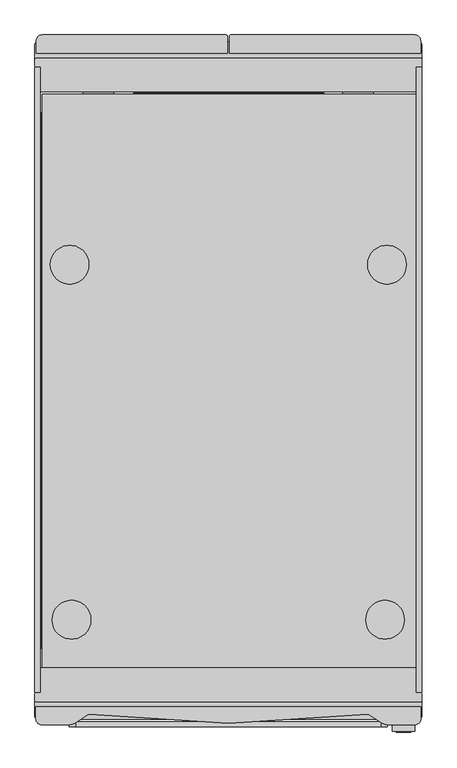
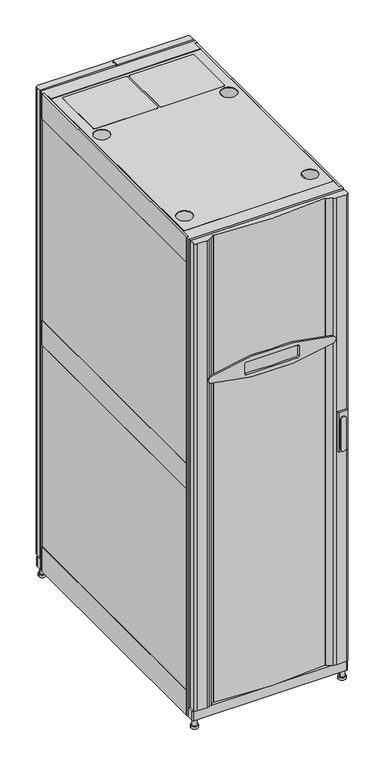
"""IFC4 building model written with IfcOpenShell, lengths in millimetres: proxy geometry, UPS_Symmetra_PX_100_Schneider_Electric_100kVA_BIM_Model : SY100K100F."""

from ifc_helpers import new_model, si_unit, point, frame, frame_2d, origin, place, context, project, spatial, polyline, circle_curve, trimmed, segment, composite_curve, outline, extrude, source, transform, mapped, element, save
from ifc_brep_helpers import plane_surface, cylinder_surface, revolved_surface, advanced_brep


def electrical_equipment_b056a7a1(model_context):
    return source(origin(), model_context, "Body", "SolidModel", [
        extrude(outline(composite_curve([segment(trimmed(circle_curve(frame_2d((965.0100104, 272.0137961)), 11.2467677), [point((965.0100104, 260.7670285))], [point((965.0100104, 283.2605638))], False, "CARTESIAN"), True, "CONTINUOUS"), segment(polyline([(965.0100104, 283.2605638), (1085.0100104, 283.2605638)]), True, "CONTINUOUS"), segment(trimmed(circle_curve(frame_2d((1085.0100104, 272.0137961)), 11.2467677), [point((1085.0100104, 283.2605638))], [point((1085.0100104, 260.7670285))], False, "CARTESIAN"), True, "CONTINUOUS"), segment(polyline([(1085.0100104, 260.7670285), (965.0100104, 260.7670285)]), True, "CONTINUOUS")], self_intersect=False)), frame((0.0, -546.5, 0.0), z_axis=(0.0, 1.0, 0.0), x_axis=(0.0, 0.0, 1.0)), (0.0, 0.0, 1.0), 2.0),
        extrude(outline(polyline([(289.0270248, -544.5), (254.2370304, -544.5), (254.2370304, -535.0), (289.0270248, -535.0), (289.0270248, -544.5)])), frame((0.0, 0.0, 955.0100058), z_axis=(0.0, 0.0, 1.0), x_axis=(1.0, 0.0, 0.0)), (0.0, 0.0, 1.0), 159.9999908),
        extrude(outline(polyline([(-292.0, 484.7389449), (-292.0, -484.3030002), (-300.0, -484.3030002), (-300.0, 484.7389449), (-292.0, 484.7389449)])), frame((0.0, 0.0, 1888.946775), z_axis=(0.0, 0.0, 1.0), x_axis=(1.0, 0.0, 0.0)), (0.0, 0.0, 1.0), 101.9999981),
        extrude(outline(polyline([(-292.0, 483.8199605), (-292.0, -483.7220002), (-300.0, -483.7220002), (-300.0, 483.8199605), (-292.0, 483.8199605)])), frame((0.0, 0.0, 1065.7405589), z_axis=(0.0, 0.0, 1.0), x_axis=(1.0, 0.0, 0.0)), (0.0, 0.0, 1.0), 822.214216),
        extrude(outline(polyline([(-292.0, 484.7389449), (-292.0, -484.3030002), (-300.0, -484.3030002), (-300.0, 484.7389449), (-292.0, 484.7389449)])), frame((0.0, 0.0, 962.4467451), z_axis=(0.0, 0.0, 1.0), x_axis=(1.0, 0.0, 0.0)), (0.0, 0.0, 1.0), 102.0000055),
        extrude(outline(polyline([(-292.0, 483.8199605), (-292.0, -483.7220002), (-300.0, -483.7220002), (-300.0, 483.8199605), (-292.0, 483.8199605)])), frame((0.0, 0.0, 139.2405663), z_axis=(0.0, 0.0, 1.0), x_axis=(1.0, 0.0, 0.0)), (0.0, 0.0, 1.0), 822.2141825),
        extrude(outline(polyline([(-292.0, 484.7389449), (-292.0, -484.3030002), (-300.0, -484.3030002), (-300.0, 484.7389449), (-292.0, 484.7389449)])), frame((0.0, 0.0, 35.9467301), z_axis=(0.0, 0.0, 1.0), x_axis=(1.0, 0.0, 0.0)), (0.0, 0.0, 1.0), 101.9999981),
        extrude(outline(polyline([(292.0, -484.3030002), (292.0, 484.7389449), (300.0, 484.7389449), (300.0, -484.3030002), (292.0, -484.3030002)])), frame((0.0, 0.0, 1888.946775), z_axis=(0.0, 0.0, 1.0), x_axis=(1.0, 0.0, 0.0)), (0.0, 0.0, 1.0), 101.9999981),
        extrude(outline(polyline([(292.0, -483.7220002), (292.0, 483.8199605), (300.0, 483.8199605), (300.0, -483.7220002), (292.0, -483.7220002)])), frame((0.0, 0.0, 1065.7405589), z_axis=(0.0, 0.0, 1.0), x_axis=(1.0, 0.0, 0.0)), (0.0, 0.0, 1.0), 822.214216),
        extrude(outline(polyline([(292.0, -484.3030002), (292.0, 484.7389449), (300.0, 484.7389449), (300.0, -484.3030002), (292.0, -484.3030002)])), frame((0.0, 0.0, 962.4467451), z_axis=(0.0, 0.0, 1.0), x_axis=(1.0, 0.0, 0.0)), (0.0, 0.0, 1.0), 102.0000055),
        extrude(outline(polyline([(292.0, -483.7220002), (292.0, 483.8199605), (300.0, 483.8199605), (300.0, -483.7220002), (292.0, -483.7220002)])), frame((0.0, 0.0, 139.2405663), z_axis=(0.0, 0.0, 1.0), x_axis=(1.0, 0.0, 0.0)), (0.0, 0.0, 1.0), 822.2141825),
        extrude(outline(polyline([(292.0, -484.3030002), (292.0, 484.7389449), (300.0, 484.7389449), (300.0, -484.3030002), (292.0, -484.3030002)])), frame((0.0, 0.0, 35.9467301), z_axis=(0.0, 0.0, 1.0), x_axis=(1.0, 0.0, 0.0)), (0.0, 0.0, 1.0), 101.9999981),
        extrude(outline(composite_curve([segment(polyline([(295.0, -525.858838), (-295.0, -525.858838)]), True, "CONTINUOUS"), segment(trimmed(circle_curve(frame_2d((-295.0, -520.858838)), 5.0), [point((-295.0, -525.858838))], [point((-300.0, -520.858838))], False, "CARTESIAN"), True, "CONTINUOUS"), segment(polyline([(-300.0, -520.858838), (-300.0, -497.6556519), (300.0, -497.6556519), (300.0, -520.858838)]), True, "CONTINUOUS"), segment(trimmed(circle_curve(frame_2d((295.0, -520.858838)), 5.0), [point((300.0, -520.858838))], [point((295.0, -525.858838))], False, "CARTESIAN"), True, "CONTINUOUS")], self_intersect=False)), frame((0.0, 0.0, 36.3), z_axis=(0.0, 0.0, 1.0), x_axis=(1.0, 0.0, 0.0)), (0.0, 0.0, 1.0), 38.1),
        extrude(outline(composite_curve([segment(trimmed(circle_curve(frame_2d((295.0, 519.921338)), 5.0), [point((295.0, 524.921338))], [point((300.0, 519.921338))], False, "CARTESIAN"), True, "CONTINUOUS"), segment(polyline([(300.0, 519.921338), (300.0, 496.7181519), (-300.0, 496.7181519), (-300.0, 519.921338)]), True, "CONTINUOUS"), segment(trimmed(circle_curve(frame_2d((-295.0, 519.921338)), 5.0), [point((-300.0, 519.921338))], [point((-295.0, 524.921338))], False, "CARTESIAN"), True, "CONTINUOUS"), segment(polyline([(-295.0, 524.921338), (295.0, 524.921338)]), True, "CONTINUOUS")], self_intersect=False)), frame((0.0, 0.0, 36.3), z_axis=(0.0, 0.0, 1.0), x_axis=(1.0, 0.0, 0.0)), (0.0, 0.0, 1.0), 38.1),
        advanced_brep(
        [(295.0884724, 510.7969997, 40.0), (276.9884724, 510.7969997, 40.0), (276.9884724, 510.7969997, 10.0), (295.0884724, 510.7969997, 10.0), (271.9800276, 510.7969997, 10.0), (299.9800276, 510.7969997, 10.0), (271.9800276, 510.7969997, 0.0), (299.9800276, 510.7969997, 0.0)],
        [
            (0, 1, circle_curve(frame((286.0384724, 510.7969997, 40.0), z_axis=(0.0, 0.0, 1.0), x_axis=(-1.0, 0.0, 0.0)), 9.05)),
            (1, 0, circle_curve(frame((286.0384724, 510.7969997, 40.0), z_axis=(0.0, 0.0, 1.0), x_axis=(-1.0, 0.0, 0.0)), 9.05)),
            (1, 2),
            (2, 3, circle_curve(frame((286.0384724, 510.7969997, 10.0), z_axis=(0.0, 0.0, 1.0), x_axis=(-1.0, 0.0, 0.0)), 9.05)),
            (3, 0),
            (3, 2, circle_curve(frame((286.0384724, 510.7969997, 10.0), z_axis=(0.0, 0.0, 1.0), x_axis=(-1.0, 0.0, 0.0)), 9.05)),
            (4, 5, circle_curve(frame((285.9800276, 510.7969997, 10.0), z_axis=(0.0, 0.0, 1.0), x_axis=(1.0, 0.0, 0.0)), 14.0)),
            (5, 4, circle_curve(frame((285.9800276, 510.7969997, 10.0), z_axis=(0.0, 0.0, 1.0), x_axis=(1.0, 0.0, 0.0)), 14.0)),
            (6, 7, circle_curve(frame((285.9800276, 510.7969997, 0.0), z_axis=(0.0, 0.0, -1.0), x_axis=(1.0, 0.0, 0.0)), 14.0)),
            (7, 6, circle_curve(frame((285.9800276, 510.7969997, 0.0), z_axis=(0.0, 0.0, -1.0), x_axis=(1.0, 0.0, 0.0)), 14.0)),
            (4, 6),
            (7, 5),
        ],
        [
            plane_surface(frame((276.9884724, 510.7969997, 40.0), z_axis=(0.0, 0.0, 1.0), x_axis=(0.0, -1.0, 0.0))),
            cylinder_surface(frame((286.0384724, 510.7969997, 10.0), z_axis=(0.0, 0.0, 1.0), x_axis=(-1.0, 0.0, 0.0)), 9.05),
            plane_surface(frame((299.9800276, 510.7969997, 10.0), z_axis=(0.0, 0.0, 1.0), x_axis=(0.0, 1.0, 0.0))),
            plane_surface(frame((299.9800276, 510.7969997, 0.0), z_axis=(0.0, 0.0, -1.0), x_axis=(0.0, -1.0, 0.0))),
            cylinder_surface(frame((285.9800276, 510.7969997, 0.0), z_axis=(0.0, 0.0, 1.0), x_axis=(1.0, 0.0, 0.0)), 14.0),
        ],
        [
            (0, [[1, 2]]),
            (1, [[-2, 3, 4, 5]]),
            (1, [[-1, -5, 6, -3]]),
            (2, [[7, 8], [-4, -6]]),
            (3, [[9, 10]]),
            (4, [[-7, 11, -10, 12]]),
            (4, [[-8, -12, -9, -11]]),
        ],
    ),
        advanced_brep(
        [(295.0884724, -511.9030003, 40.0), (276.9884724, -511.9030003, 40.0), (276.9884724, -511.9030003, 10.0), (295.0884724, -511.9030003, 10.0), (271.9800276, -511.9030003, 10.0), (299.9800276, -511.9030003, 10.0), (271.9800276, -511.9030003, 0.0), (299.9800276, -511.9030003, 0.0)],
        [
            (0, 1, circle_curve(frame((286.0384724, -511.9030003, 40.0), z_axis=(0.0, 0.0, 1.0), x_axis=(-1.0, 0.0, 0.0)), 9.05)),
            (1, 0, circle_curve(frame((286.0384724, -511.9030003, 40.0), z_axis=(0.0, 0.0, 1.0), x_axis=(-1.0, 0.0, 0.0)), 9.05)),
            (1, 2),
            (2, 3, circle_curve(frame((286.0384724, -511.9030003, 10.0), z_axis=(0.0, 0.0, 1.0), x_axis=(-1.0, 0.0, 0.0)), 9.05)),
            (3, 0),
            (3, 2, circle_curve(frame((286.0384724, -511.9030003, 10.0), z_axis=(0.0, 0.0, 1.0), x_axis=(-1.0, 0.0, 0.0)), 9.05)),
            (4, 5, circle_curve(frame((285.9800276, -511.9030003, 10.0), z_axis=(0.0, 0.0, 1.0), x_axis=(1.0, 0.0, 0.0)), 14.0)),
            (5, 4, circle_curve(frame((285.9800276, -511.9030003, 10.0), z_axis=(0.0, 0.0, 1.0), x_axis=(1.0, 0.0, 0.0)), 14.0)),
            (6, 7, circle_curve(frame((285.9800276, -511.9030003, 0.0), z_axis=(0.0, 0.0, -1.0), x_axis=(1.0, 0.0, 0.0)), 14.0)),
            (7, 6, circle_curve(frame((285.9800276, -511.9030003, 0.0), z_axis=(0.0, 0.0, -1.0), x_axis=(1.0, 0.0, 0.0)), 14.0)),
            (4, 6),
            (7, 5),
        ],
        [
            plane_surface(frame((276.9884724, 510.7969997, 40.0), z_axis=(0.0, 0.0, 1.0), x_axis=(0.0, -1.0, 0.0))),
            cylinder_surface(frame((286.0384724, -511.9030003, 0.0), z_axis=(0.0, 0.0, 1.0), x_axis=(-1.0, 0.0, 0.0)), 9.05),
            plane_surface(frame((299.9800276, 510.7969997, 10.0), z_axis=(0.0, 0.0, 1.0), x_axis=(0.0, 1.0, 0.0))),
            plane_surface(frame((299.9800276, 510.7969997, 0.0), z_axis=(0.0, 0.0, -1.0), x_axis=(0.0, -1.0, 0.0))),
            cylinder_surface(frame((285.9800276, -511.9030003, 0.0), z_axis=(0.0, 0.0, 1.0), x_axis=(1.0, 0.0, 0.0)), 14.0),
        ],
        [
            (0, [[1, 2]]),
            (1, [[-2, 3, 4, 5]]),
            (1, [[-1, -5, 6, -3]]),
            (2, [[7, 8], [-4, -6]]),
            (3, [[9, 10]]),
            (4, [[-7, 11, -10, 12]]),
            (4, [[-8, -12, -9, -11]]),
        ],
    ),
        extrude(outline(polyline([(237.0235403, 263.8835947), (-240.5320546, 263.8835947), (-240.5320546, 410.9154708), (237.0235403, 410.9154708), (237.0235403, 263.8835947)])), frame((0.0, 0.0, 44.5), z_axis=(0.0, 0.0, 1.0), x_axis=(1.0, 0.0, 0.0)), (0.0, 0.0, 1.0), 1.0),
        extrude(outline(polyline([(-289.9249756, -416.0459999), (-289.9249756, 414.9399709), (-146.8398751, 414.9399709), (-146.8398751, 444.9399709), (148.1601249, 444.9399709), (148.1601249, 414.9399709), (290.3410287, 414.9399709), (290.3410287, -416.0459999), (147.8889915, -416.0459999), (147.8889915, -446.0459999), (-147.1110085, -446.0459999), (-147.1110085, -416.0459999), (-289.9249756, -416.0459999)])), frame((0.0, 0.0, 40.0), z_axis=(0.0, 0.0, 1.0), x_axis=(1.0, 0.0, 0.0)), (0.0, 0.0, 1.0), 5.0),
        advanced_brep(
        [(-299.7259724, -511.9030003, 10.0), (-271.7259724, -511.9030003, 10.0), (-276.6759724, -511.9030003, 10.0), (-294.7759724, -511.9030003, 10.0), (-299.7259724, -511.9030003, 0.0), (-271.7259724, -511.9030003, 0.0), (-294.7759724, -511.9030003, 40.0), (-276.6759724, -511.9030003, 40.0)],
        [
            (0, 1, circle_curve(frame((-285.7259724, -511.9030003, 10.0), z_axis=(0.0, 0.0, 1.0), x_axis=(1.0, 0.0, 0.0)), 14.0)),
            (1, 0, circle_curve(frame((-285.7259724, -511.9030003, 10.0), z_axis=(0.0, 0.0, 1.0), x_axis=(1.0, 0.0, 0.0)), 14.0)),
            (2, 3, circle_curve(frame((-285.7259724, -511.9030003, 10.0), z_axis=(0.0, 0.0, -1.0), x_axis=(1.0, 0.0, 0.0)), 9.05)),
            (3, 2, circle_curve(frame((-285.7259724, -511.9030003, 10.0), z_axis=(0.0, 0.0, -1.0), x_axis=(1.0, 0.0, 0.0)), 9.05)),
            (4, 5, circle_curve(frame((-285.7259724, -511.9030003, 0.0), z_axis=(0.0, 0.0, -1.0), x_axis=(1.0, 0.0, 0.0)), 14.0)),
            (5, 4, circle_curve(frame((-285.7259724, -511.9030003, 0.0), z_axis=(0.0, 0.0, -1.0), x_axis=(1.0, 0.0, 0.0)), 14.0)),
            (0, 4),
            (5, 1),
            (6, 7, circle_curve(frame((-285.7259724, -511.9030003, 40.0), z_axis=(0.0, 0.0, 1.0), x_axis=(1.0, 0.0, 0.0)), 9.05)),
            (7, 6, circle_curve(frame((-285.7259724, -511.9030003, 40.0), z_axis=(0.0, 0.0, 1.0), x_axis=(1.0, 0.0, 0.0)), 9.05)),
            (6, 3),
            (2, 7),
        ],
        [
            plane_surface(frame((-271.7259724, -511.9030003, 10.0), z_axis=(0.0, 0.0, 1.0), x_axis=(0.0, 1.0, 0.0))),
            plane_surface(frame((-271.7259724, -511.9030003, 0.0), z_axis=(0.0, 0.0, -1.0), x_axis=(0.0, -1.0, 0.0))),
            cylinder_surface(frame((-285.7259724, -511.9030003, 0.0), z_axis=(0.0, 0.0, 1.0), x_axis=(1.0, 0.0, 0.0)), 14.0),
            plane_surface(frame((-276.6759724, 510.7969997, 40.0), z_axis=(0.0, 0.0, 1.0), x_axis=(0.0, 1.0, 0.0))),
            cylinder_surface(frame((-285.7259724, -511.9030003, 0.0), z_axis=(0.0, 0.0, 1.0), x_axis=(1.0, 0.0, 0.0)), 9.05),
        ],
        [
            (0, [[1, 2], [3, 4]]),
            (1, [[5, 6]]),
            (2, [[-1, 7, -6, 8]]),
            (2, [[-2, -8, -5, -7]]),
            (3, [[9, 10]]),
            (4, [[-9, 11, -3, 12]]),
            (4, [[-10, -12, -4, -11]]),
        ],
    ),
        advanced_brep(
        [(-299.7259724, 510.7969997, 10.0), (-271.7259724, 510.7969997, 10.0), (-276.6759724, 510.7969997, 10.0), (-294.7759724, 510.7969997, 10.0), (-299.7259724, 510.7969997, 0.0), (-271.7259724, 510.7969997, 0.0), (-294.7759724, 510.7969997, 40.0), (-276.6759724, 510.7969997, 40.0)],
        [
            (0, 1, circle_curve(frame((-285.7259724, 510.7969997, 10.0), z_axis=(0.0, 0.0, 1.0), x_axis=(1.0, 0.0, 0.0)), 14.0)),
            (1, 0, circle_curve(frame((-285.7259724, 510.7969997, 10.0), z_axis=(0.0, 0.0, 1.0), x_axis=(1.0, 0.0, 0.0)), 14.0)),
            (2, 3, circle_curve(frame((-285.7259724, 510.7969997, 10.0), z_axis=(0.0, 0.0, -1.0), x_axis=(1.0, 0.0, 0.0)), 9.05)),
            (3, 2, circle_curve(frame((-285.7259724, 510.7969997, 10.0), z_axis=(0.0, 0.0, -1.0), x_axis=(1.0, 0.0, 0.0)), 9.05)),
            (4, 5, circle_curve(frame((-285.7259724, 510.7969997, 0.0), z_axis=(0.0, 0.0, -1.0), x_axis=(1.0, 0.0, 0.0)), 14.0)),
            (5, 4, circle_curve(frame((-285.7259724, 510.7969997, 0.0), z_axis=(0.0, 0.0, -1.0), x_axis=(1.0, 0.0, 0.0)), 14.0)),
            (0, 4),
            (5, 1),
            (6, 7, circle_curve(frame((-285.7259724, 510.7969997, 40.0), z_axis=(0.0, 0.0, 1.0), x_axis=(1.0, 0.0, 0.0)), 9.05)),
            (7, 6, circle_curve(frame((-285.7259724, 510.7969997, 40.0), z_axis=(0.0, 0.0, 1.0), x_axis=(1.0, 0.0, 0.0)), 9.05)),
            (6, 3),
            (2, 7),
        ],
        [
            plane_surface(frame((-271.7259724, -511.9030003, 10.0), z_axis=(0.0, 0.0, 1.0), x_axis=(0.0, 1.0, 0.0))),
            plane_surface(frame((-271.7259724, -511.9030003, 0.0), z_axis=(0.0, 0.0, -1.0), x_axis=(0.0, -1.0, 0.0))),
            cylinder_surface(frame((-285.7259724, 510.7969997, 0.0), z_axis=(0.0, 0.0, 1.0), x_axis=(1.0, 0.0, 0.0)), 14.0),
            plane_surface(frame((-276.6759724, 510.7969997, 40.0), z_axis=(0.0, 0.0, 1.0), x_axis=(0.0, 1.0, 0.0))),
            cylinder_surface(frame((-285.7259724, 510.7969997, 10.0), z_axis=(0.0, 0.0, 1.0), x_axis=(1.0, 0.0, 0.0)), 9.05),
        ],
        [
            (0, [[1, 2], [3, 4]]),
            (1, [[5, 6]]),
            (2, [[-1, 7, -6, 8]]),
            (2, [[-2, -8, -5, -7]]),
            (3, [[9, 10]]),
            (4, [[-9, 11, -3, 12]]),
            (4, [[-10, -12, -4, -11]]),
        ],
    ),
        extrude(outline(composite_curve([segment(trimmed(circle_curve(frame_2d((-460.0797469, 31.0)), 31.0), [point((-491.0797469, 31.0))], [point((-429.0797469, 31.0))], False, "CARTESIAN"), True, "CONTINUOUS"), segment(trimmed(circle_curve(frame_2d((-460.0797469, 31.0)), 31.0), [point((-429.0797469, 31.0))], [point((-491.0797469, 31.0))], False, "CARTESIAN"), True, "CONTINUOUS")], self_intersect=False)), frame((178.0, 0.0, 0.0), z_axis=(1.0, 0.0, 0.0), x_axis=(0.0, 1.0, 0.0)), (0.0, 0.0, 1.0), 47.0),
        extrude(outline(composite_curve([segment(trimmed(circle_curve(frame_2d((456.1065435, 31.0)), 31.0), [point((425.1065435, 31.0))], [point((487.1065435, 31.0))], False, "CARTESIAN"), True, "CONTINUOUS"), segment(trimmed(circle_curve(frame_2d((456.1065435, 31.0)), 31.0), [point((487.1065435, 31.0))], [point((425.1065435, 31.0))], False, "CARTESIAN"), True, "CONTINUOUS")], self_intersect=False)), frame((178.0, 0.0, 0.0), z_axis=(1.0, 0.0, 0.0), x_axis=(0.0, 1.0, 0.0)), (0.0, 0.0, 1.0), 47.0),
        extrude(outline(composite_curve([segment(trimmed(circle_curve(frame_2d((297.7190436, 496.7139543)), 2.4079842), [point((297.7190437, 499.1219386))], [point((300.1270278, 496.7139541))], False, "CARTESIAN"), True, "CONTINUOUS"), segment(polyline([(300.1270278, 496.7139541), (300.1270278, 486.9109379)]), True, "CONTINUOUS"), segment(trimmed(circle_curve(frame_2d((297.7190273, 486.9109379)), 2.4080005), [point((300.1270278, 486.9109379))], [point((297.7190273, 484.5029374))], False, "CARTESIAN"), True, "CONTINUOUS"), segment(polyline([(297.7190273, 484.5029374), (290.8795297, 484.5029374), (290.8795297, 446.5903878), (-290.6255007, 446.5903878), (-290.6255007, 484.5029365), (-297.4649733, 484.5029365)]), True, "CONTINUOUS"), segment(trimmed(circle_curve(frame_2d((-297.4649742, 486.9109387)), 2.4080021), [point((-297.4649733, 484.5029365))], [point((-299.8729763, 486.9109382))], False, "CARTESIAN"), True, "CONTINUOUS"), segment(polyline([(-299.8729763, 486.9109382), (-299.8729763, 496.7139374)]), True, "CONTINUOUS"), segment(trimmed(circle_curve(frame_2d((-297.4649722, 496.7139344)), 2.4080041), [point((-299.8729763, 496.7139374))], [point((-297.4649711, 499.1219386))], False, "CARTESIAN"), True, "CONTINUOUS"), segment(polyline([(-297.4649711, 499.1219386), (297.7190437, 499.1219386)]), True, "CONTINUOUS")], self_intersect=False)), frame((0.0, 0.0, 36.3), z_axis=(0.0, 0.0, 1.0), x_axis=(1.0, 0.0, 0.0)), (0.0, 0.0, 1.0), 1954.7),
        extrude(outline(composite_curve([segment(polyline([(297.7190437, -499.122001), (-297.4649711, -499.122001)]), True, "CONTINUOUS"), segment(trimmed(circle_curve(frame_2d((-297.4649722, -496.7139968)), 2.4080041), [point((-297.4649711, -499.122001))], [point((-299.8729763, -496.7139998))], False, "CARTESIAN"), True, "CONTINUOUS"), segment(polyline([(-299.8729763, -496.7139998), (-299.8729763, -486.9110006)]), True, "CONTINUOUS"), segment(trimmed(circle_curve(frame_2d((-297.4649742, -486.9110011)), 2.4080021), [point((-299.8729763, -486.9110006))], [point((-297.4649733, -484.5029989))], False, "CARTESIAN"), True, "CONTINUOUS"), segment(polyline([(-297.4649733, -484.5029989), (-290.6255007, -484.5029989), (-290.6255007, -446.5904502), (290.8795297, -446.5904502), (290.8795297, -484.5029998), (297.7190273, -484.5029998)]), True, "CONTINUOUS"), segment(trimmed(circle_curve(frame_2d((297.7190273, -486.9110003)), 2.4080005), [point((297.7190273, -484.5029998))], [point((300.1270278, -486.9110003))], False, "CARTESIAN"), True, "CONTINUOUS"), segment(polyline([(300.1270278, -486.9110003), (300.1270278, -496.7140165)]), True, "CONTINUOUS"), segment(trimmed(circle_curve(frame_2d((297.7190436, -496.7140167)), 2.4079842), [point((300.1270278, -496.7140165))], [point((297.7190437, -499.122001))], False, "CARTESIAN"), True, "CONTINUOUS")], self_intersect=False)), frame((0.0, 0.0, 36.3), z_axis=(0.0, 0.0, 1.0), x_axis=(1.0, 0.0, 0.0)), (0.0, 0.0, 1.0), 1954.7),
        extrude(outline(polyline([(290.5825286, 443.349961), (290.5825286, -446.3030015), (-288.9999642, -446.3030015), (-288.9999642, 443.349961), (290.5825286, 443.349961)]), holes=[composite_curve([segment(trimmed(circle_curve(frame_2d((-243.1439151, -371.8732199)), 29.9499401), [point((-273.0938552, -371.8732199))], [point((-213.193975, -371.8732199))], True, "CARTESIAN"), True, "CONTINUOUS"), segment(trimmed(circle_curve(frame_2d((-243.1439151, -371.8732199)), 29.9499401), [point((-213.193975, -371.8732199))], [point((-273.0938552, -371.8732199))], True, "CARTESIAN"), True, "CONTINUOUS")], self_intersect=False), composite_curve([segment(trimmed(circle_curve(frame_2d((243.1551123, -371.8732199)), 29.9499401), [point((213.2051722, -371.8732199))], [point((273.1050524, -371.8732199))], True, "CARTESIAN"), True, "CONTINUOUS"), segment(trimmed(circle_curve(frame_2d((243.1551123, -371.8732199)), 29.9499401), [point((273.1050524, -371.8732199))], [point((213.2051722, -371.8732199))], True, "CARTESIAN"), True, "CONTINUOUS")], self_intersect=False), composite_curve([segment(trimmed(circle_curve(frame_2d((246.1551063, 178.7256789)), 29.9499401), [point((216.2051662, 178.7256789))], [point((276.1050464, 178.7256789))], True, "CARTESIAN"), True, "CONTINUOUS"), segment(trimmed(circle_curve(frame_2d((246.1551063, 178.7256789)), 29.9499401), [point((276.1050464, 178.7256789))], [point((216.2051662, 178.7256789))], True, "CARTESIAN"), True, "CONTINUOUS")], self_intersect=False), composite_curve([segment(trimmed(circle_curve(frame_2d((-246.1439091, 178.7256789)), 29.9499401), [point((-276.0938492, 178.7256789))], [point((-216.193969, 178.7256789))], True, "CARTESIAN"), True, "CONTINUOUS"), segment(trimmed(circle_curve(frame_2d((-246.1439091, 178.7256789)), 29.9499401), [point((-216.193969, 178.7256789))], [point((-276.0938492, 178.7256789))], True, "CARTESIAN"), True, "CONTINUOUS")], self_intersect=False)]), frame((0.0, 0.0, 1990.0), z_axis=(0.0, 0.0, 1.0), x_axis=(1.0, 0.0, 0.0)), (0.0, 0.0, 1.0), 1.0),
        advanced_brep(
        [(298.6270294, -506.9500011, 1991.0), (-298.3669519, -506.9500011, 1991.0), (-298.3669519, -525.6943843, 1991.0), (-288.7729883, -535.0, 1991.0), (-250.3829777, -535.0, 1991.0), (-242.0373277, -533.6568848, 1991.0), (-232.149142, -528.5877079, 1991.0), (-217.3214294, -518.6957693, 1991.0), (-215.6643699, -518.335494, 1991.0), (215.8672846, -518.3423611, 1991.0), (217.5757227, -518.6954125, 1991.0), (239.3581345, -532.496333, 1991.0), (250.6364957, -535.0000003, 1991.0), (289.0270286, -535.0000003, 1991.0), (298.6270294, -525.4000001, 1991.0), (298.6270294, -506.9500011, 80.3), (298.6270294, -525.4000001, 80.3), (289.0270286, -535.0000003, 80.3), (250.6364957, -535.0000003, 80.3), (239.3581345, -532.496333, 80.3), (217.5757225, -518.6954128, 80.3), (215.8672846, -518.3423611, 80.3), (-215.6643699, -518.335494, 80.3), (-217.3214294, -518.6957693, 80.3), (-232.149142, -528.5877079, 80.3), (-242.0373277, -533.6568848, 80.3), (-250.3829777, -535.0, 80.3), (-288.7729883, -535.0, 80.3), (-298.3669519, -525.6943843, 80.3), (-298.3669519, -506.9500011, 80.3)],
        [
            (0, 1),
            (1, 2),
            (2, 3, circle_curve(frame((-288.7729883, -525.4015689, 1991.0), z_axis=(0.0, 0.0, 1.0), x_axis=(1.0, 0.0, 0.0)), 9.5984311)),
            (3, 4),
            (4, 5, circle_curve(frame((-250.1008714, -510.1528714, 1991.0), z_axis=(0.0, 0.0, 1.0), x_axis=(1.0, 0.0, 0.0)), 24.84873)),
            (5, 6, circle_curve(frame((-254.6682955, -496.8395194, 1991.0), z_axis=(0.0, 0.0, 1.0), x_axis=(1.0, 0.0, 0.0)), 38.9237684)),
            (6, 7, circle_curve(frame((-51.990788, -782.580443, 1991.0), z_axis=(0.0, 0.0, -1.0), x_axis=(1.0, 0.0, 0.0)), 311.3990078)),
            (7, 8, circle_curve(frame((-215.9926018, -520.8167145, 1991.0), z_axis=(0.0, 0.0, -1.0), x_axis=(1.0, 0.0, 0.0)), 2.5028366)),
            (8, 9, circle_curve(frame((0.1270279, 1088.5161436, 1991.0), z_axis=(0.0, 0.0, 1.0), x_axis=(1.0, 0.0, 0.0)), 1621.2766921)),
            (9, 10, circle_curve(frame((216.2852436, -520.6299765, 1991.0), z_axis=(0.0, 0.0, -1.0), x_axis=(1.0, 0.0, 0.0)), 2.3254836)),
            (10, 11, circle_curve(frame((521.6509127, -62.8546774, 1991.0), z_axis=(0.0, 0.0, 1.0), x_axis=(1.0, 0.0, 0.0)), 547.9530065)),
            (11, 12, circle_curve(frame((250.651957, -508.2754956, 1991.0), z_axis=(0.0, 0.0, 1.0), x_axis=(1.0, 0.0, 0.0)), 26.7245092)),
            (12, 13),
            (13, 14, circle_curve(frame((289.0270291, -525.4000001, 1991.0), z_axis=(0.0, 0.0, 1.0), x_axis=(1.0, 0.0, 0.0)), 9.6000003)),
            (14, 0),
            (15, 16),
            (16, 17, circle_curve(frame((289.0270291, -525.4000001, 80.3), z_axis=(0.0, 0.0, -1.0), x_axis=(1.0, 0.0, 0.0)), 9.6000003)),
            (17, 18),
            (18, 19, circle_curve(frame((250.651957, -508.2754956, 80.3), z_axis=(0.0, 0.0, -1.0), x_axis=(1.0, 0.0, 0.0)), 26.7245092)),
            (19, 20, circle_curve(frame((521.6509127, -62.8546774, 80.3), z_axis=(0.0, 0.0, -1.0), x_axis=(1.0, 0.0, 0.0)), 547.9530065)),
            (20, 21, circle_curve(frame((216.2852436, -520.6299765, 80.3), z_axis=(0.0, 0.0, 1.0), x_axis=(1.0, 0.0, 0.0)), 2.3254836)),
            (21, 22, circle_curve(frame((0.1270279, 1088.5161436, 80.3), z_axis=(0.0, 0.0, -1.0), x_axis=(1.0, 0.0, 0.0)), 1621.2766921)),
            (22, 23, circle_curve(frame((-215.9926018, -520.8167145, 80.3), z_axis=(0.0, 0.0, 1.0), x_axis=(1.0, 0.0, 0.0)), 2.5028366)),
            (23, 24, circle_curve(frame((-51.990788, -782.580443, 80.3), z_axis=(0.0, 0.0, 1.0), x_axis=(1.0, 0.0, 0.0)), 311.3990078)),
            (24, 25, circle_curve(frame((-254.6682955, -496.8395194, 80.3), z_axis=(0.0, 0.0, -1.0), x_axis=(1.0, 0.0, 0.0)), 38.9237684)),
            (25, 26, circle_curve(frame((-250.1008714, -510.1528714, 80.3), z_axis=(0.0, 0.0, -1.0), x_axis=(1.0, 0.0, 0.0)), 24.84873)),
            (26, 27),
            (27, 28, circle_curve(frame((-288.7729883, -525.4015689, 80.3), z_axis=(0.0, 0.0, -1.0), x_axis=(1.0, 0.0, 0.0)), 9.5984311)),
            (28, 29),
            (29, 15),
            (0, 15),
            (29, 1),
            (28, 2),
            (27, 3),
            (26, 4),
            (25, 5),
            (24, 6),
            (23, 7),
            (22, 8),
            (21, 9),
            (20, 10),
            (19, 11),
            (18, 12),
            (17, 13),
            (16, 14),
        ],
        [
            plane_surface(frame((-298.3669519, -506.9500011, 1991.0), z_axis=(0.0, 0.0, 1.0), x_axis=(-1.0, 0.0, 0.0))),
            plane_surface(frame((-298.3669519, -506.9500011, 80.3), z_axis=(0.0, 0.0, -1.0), x_axis=(1.0, 0.0, 0.0))),
            plane_surface(frame((298.6270294, -506.9500011, 1991.0), z_axis=(0.0, 1.0, 0.0), x_axis=(0.0, 0.0, -1.0))),
            plane_surface(frame((-298.3669519, -506.9500011, 1991.0), z_axis=(-1.0, 0.0, 0.0), x_axis=(0.0, 0.0, -1.0))),
            cylinder_surface(frame((-288.7729883, -525.4015689, 80.3), z_axis=(0.0, 0.0, 1.0), x_axis=(1.0, 0.0, 0.0)), 9.5984311),
            plane_surface(frame((-288.7729883, -535.0, 1991.0), z_axis=(0.0, -1.0, 0.0), x_axis=(0.0, 0.0, -1.0))),
            cylinder_surface(frame((-250.1008714, -510.1528714, 80.3), z_axis=(0.0, 0.0, 1.0), x_axis=(1.0, 0.0, 0.0)), 24.84873),
            cylinder_surface(frame((-254.6682955, -496.8395194, 80.3), z_axis=(0.0, 0.0, 1.0), x_axis=(1.0, 0.0, 0.0)), 38.9237684),
            revolved_surface(polyline([(259.4082198, -782.580443, 80.3), (259.4082198, -782.580443, 1991.0)]), (-51.990788, -782.580443, 80.3), (0.0, 0.0, -1.0)),
            revolved_surface(polyline([(-213.4897652, -520.8167145, 80.3), (-213.4897652, -520.8167145, 1991.0)]), (-215.9926018, -520.8167145, 80.3), (0.0, 0.0, -1.0)),
            cylinder_surface(frame((0.1270279, 1088.5161436, 80.3), z_axis=(0.0, 0.0, 1.0), x_axis=(1.0, 0.0, 0.0)), 1621.2766921),
            revolved_surface(polyline([(218.6107272, -520.6299765, 80.3), (218.6107272, -520.6299765, 1991.0)]), (216.2852436, -520.6299765, 80.3), (0.0, 0.0, -1.0)),
            cylinder_surface(frame((521.6509127, -62.8546774, 80.3), z_axis=(0.0, 0.0, 1.0), x_axis=(1.0, 0.0, 0.0)), 547.9530065),
            cylinder_surface(frame((250.651957, -508.2754956, 80.3), z_axis=(0.0, 0.0, 1.0), x_axis=(1.0, 0.0, 0.0)), 26.7245092),
            plane_surface(frame((250.6364957, -535.0000003, 1991.0), z_axis=(0.0, -1.0, 0.0), x_axis=(0.0, 0.0, -1.0))),
            cylinder_surface(frame((289.0270291, -525.4000001, 80.3), z_axis=(0.0, 0.0, 1.0), x_axis=(1.0, 0.0, 0.0)), 9.6000003),
            plane_surface(frame((298.6270294, -525.4000001, 1991.0), z_axis=(1.0, 0.0, 0.0), x_axis=(0.0, 0.0, -1.0))),
        ],
        [
            (0, [[1, 2, 3, 4, 5, 6, 7, 8, 9, 10, 11, 12, 13, 14, 15]]),
            (1, [[16, 17, 18, 19, 20, 21, 22, 23, 24, 25, 26, 27, 28, 29, 30]]),
            (2, [[-1, 31, -30, 32]]),
            (3, [[-2, -32, -29, 33]]),
            (4, [[-3, -33, -28, 34]]),
            (5, [[-4, -34, -27, 35]]),
            (6, [[-5, -35, -26, 36]]),
            (7, [[-6, -36, -25, 37]]),
            (8, [[-7, -37, -24, 38]]),
            (9, [[-8, -38, -23, 39]]),
            (10, [[-9, -39, -22, 40]]),
            (11, [[-10, -40, -21, 41]]),
            (12, [[-11, -41, -20, 42]]),
            (13, [[-12, -42, -19, 43]]),
            (14, [[-13, -43, -18, 44]]),
            (15, [[-14, -44, -17, 45]]),
            (16, [[-15, -45, -16, -31]]),
        ],
    ),
        advanced_brep(
        [(-297.9869723, 506.949935, 1991.0), (-1.486975, 506.949935, 1991.0), (-1.486975, 532.8969991, 1991.0), (-3.5899758, 535.0, 1991.0), (-287.7730012, 535.0, 1991.0), (-288.7729388, 535.0, 1991.0), (-297.9869723, 525.7859664, 1991.0), (-297.9869723, 506.949935, 80.3), (-297.9869723, 525.7859664, 80.3), (-288.7729388, 535.0, 80.3), (-287.7730012, 535.0, 80.3), (-3.5899758, 535.0, 80.3), (-1.486975, 532.8969991, 80.3), (-1.486975, 506.949935, 80.3)],
        [
            (0, 1),
            (1, 2),
            (2, 3, circle_curve(frame((-3.5899758, 532.8969991, 1991.0), z_axis=(0.0, 0.0, 1.0), x_axis=(1.0, 0.0, 0.0)), 2.1030009)),
            (3, 4),
            (4, 5),
            (5, 6, circle_curve(frame((-288.7729388, 525.7859664, 1991.0), z_axis=(0.0, 0.0, 1.0), x_axis=(1.0, 0.0, 0.0)), 9.2140336)),
            (6, 0),
            (7, 8),
            (8, 9, circle_curve(frame((-288.7729388, 525.7859664, 80.3), z_axis=(0.0, 0.0, -1.0), x_axis=(1.0, 0.0, 0.0)), 9.2140336)),
            (9, 10),
            (10, 11),
            (11, 12, circle_curve(frame((-3.5899758, 532.8969991, 80.3), z_axis=(0.0, 0.0, -1.0), x_axis=(1.0, 0.0, 0.0)), 2.1030009)),
            (12, 13),
            (13, 7),
            (0, 7),
            (13, 1),
            (12, 2),
            (11, 3),
            (10, 4),
            (9, 5),
            (8, 6),
        ],
        [
            plane_surface(frame((-298.3669519, -506.9500011, 1991.0), z_axis=(0.0, 0.0, 1.0), x_axis=(-1.0, 0.0, 0.0))),
            plane_surface(frame((-298.3669519, -506.9500011, 80.3), z_axis=(0.0, 0.0, -1.0), x_axis=(1.0, 0.0, 0.0))),
            plane_surface(frame((-297.9869723, 506.949935, 1991.0), z_axis=(0.0, -1.0, 0.0), x_axis=(0.0, 0.0, -1.0))),
            plane_surface(frame((-1.486975, 506.949935, 1991.0), z_axis=(1.0, 0.0, 0.0), x_axis=(0.0, 0.0, -1.0))),
            cylinder_surface(frame((-3.5899758, 532.8969991, 0.0), z_axis=(0.0, 0.0, 1.0), x_axis=(1.0, 0.0, 0.0)), 2.1030009),
            plane_surface(frame((-3.5899758, 535.0, 1991.0), z_axis=(0.0, 1.0, 0.0), x_axis=(0.0, 0.0, -1.0))),
            plane_surface(frame((-287.7730012, 535.0, 1991.0), z_axis=(0.0, 1.0, 0.0), x_axis=(0.0, 0.0, -1.0))),
            cylinder_surface(frame((-288.7729388, 525.7859664, 0.0), z_axis=(0.0, 0.0, 1.0), x_axis=(1.0, 0.0, 0.0)), 9.2140336),
            plane_surface(frame((-297.9869723, 525.7859664, 1991.0), z_axis=(-1.0, 0.0, 0.0), x_axis=(0.0, 0.0, -1.0))),
        ],
        [
            (0, [[1, 2, 3, 4, 5, 6, 7]]),
            (1, [[8, 9, 10, 11, 12, 13, 14]]),
            (2, [[-1, 15, -14, 16]]),
            (3, [[-2, -16, -13, 17]]),
            (4, [[-3, -17, -12, 18]]),
            (5, [[-4, -18, -11, 19]]),
            (6, [[-5, -19, -10, 20]]),
            (7, [[-6, -20, -9, 21]]),
            (8, [[-7, -21, -8, -15]]),
        ],
    ),
        advanced_brep(
        [(298.3397663, 506.949935, 1991.0), (298.3397663, 525.7859664, 1991.0), (289.1257327, 535.0, 1991.0), (288.1257951, 535.0, 1991.0), (3.9427698, 535.0, 1991.0), (1.8397689, 532.8969991, 1991.0), (1.8397689, 506.949935, 1991.0), (298.3397663, 506.949935, 80.3), (1.8397689, 506.949935, 80.3), (1.8397689, 532.8969991, 80.3), (3.9427698, 535.0, 80.3), (288.1257951, 535.0, 80.3), (289.1257327, 535.0, 80.3), (298.3397663, 525.7859664, 80.3)],
        [
            (0, 1),
            (1, 2, circle_curve(frame((289.1257327, 525.7859664, 1991.0), z_axis=(0.0, 0.0, 1.0), x_axis=(1.0, 0.0, 0.0)), 9.2140336)),
            (2, 3),
            (3, 4),
            (4, 5, circle_curve(frame((3.9427698, 532.8969991, 1991.0), z_axis=(0.0, 0.0, 1.0), x_axis=(1.0, 0.0, 0.0)), 2.1030009)),
            (5, 6),
            (6, 0),
            (7, 8),
            (8, 9),
            (9, 10, circle_curve(frame((3.9427698, 532.8969991, 80.3), z_axis=(0.0, 0.0, -1.0), x_axis=(1.0, 0.0, 0.0)), 2.1030009)),
            (10, 11),
            (11, 12),
            (12, 13, circle_curve(frame((289.1257327, 525.7859664, 80.3), z_axis=(0.0, 0.0, -1.0), x_axis=(1.0, 0.0, 0.0)), 9.2140336)),
            (13, 7),
            (0, 7),
            (13, 1),
            (12, 2),
            (11, 3),
            (10, 4),
            (9, 5),
            (8, 6),
        ],
        [
            plane_surface(frame((-298.3669519, -506.9500011, 1991.0), z_axis=(0.0, 0.0, 1.0), x_axis=(-1.0, 0.0, 0.0))),
            plane_surface(frame((-298.3669519, -506.9500011, 80.3), z_axis=(0.0, 0.0, -1.0), x_axis=(1.0, 0.0, 0.0))),
            plane_surface(frame((298.3397663, 506.949935, 1991.0), z_axis=(1.0, 0.0, 0.0), x_axis=(0.0, 0.0, -1.0))),
            cylinder_surface(frame((289.1257327, 525.7859664, 0.0), z_axis=(0.0, 0.0, 1.0), x_axis=(1.0, 0.0, 0.0)), 9.2140336),
            plane_surface(frame((289.1257327, 535.0, 1991.0), z_axis=(0.0, 1.0, 0.0), x_axis=(0.0, 0.0, -1.0))),
            plane_surface(frame((288.1257951, 535.0, 1991.0), z_axis=(0.0, 1.0, 0.0), x_axis=(0.0, 0.0, -1.0))),
            cylinder_surface(frame((3.9427698, 532.8969991, 0.0), z_axis=(0.0, 0.0, 1.0), x_axis=(1.0, 0.0, 0.0)), 2.1030009),
            plane_surface(frame((1.8397689, 532.8969991, 1991.0), z_axis=(-1.0, 0.0, 0.0), x_axis=(0.0, 0.0, -1.0))),
            plane_surface(frame((1.8397689, 506.949935, 1991.0), z_axis=(0.0, -1.0, 0.0), x_axis=(0.0, 0.0, -1.0))),
        ],
        [
            (0, [[1, 2, 3, 4, 5, 6, 7]]),
            (1, [[8, 9, 10, 11, 12, 13, 14]]),
            (2, [[-1, 15, -14, 16]]),
            (3, [[-2, -16, -13, 17]]),
            (4, [[-3, -17, -12, 18]]),
            (5, [[-4, -18, -11, 19]]),
            (6, [[-5, -19, -10, 20]]),
            (7, [[-6, -20, -9, 21]]),
            (8, [[-7, -21, -8, -15]]),
        ],
    ),
        extrude(outline(composite_curve([segment(trimmed(circle_curve(frame_2d((-460.0797469, 31.0)), 31.0), [point((-491.0797469, 31.0))], [point((-429.0797469, 31.0))], False, "CARTESIAN"), True, "CONTINUOUS"), segment(trimmed(circle_curve(frame_2d((-460.0797469, 31.0)), 31.0), [point((-429.0797469, 31.0))], [point((-491.0797469, 31.0))], False, "CARTESIAN"), True, "CONTINUOUS")], self_intersect=False)), frame((-225.0, 0.0, 0.0), z_axis=(1.0, 0.0, 0.0), x_axis=(0.0, 1.0, 0.0)), (0.0, 0.0, 1.0), 47.0),
        extrude(outline(composite_curve([segment(trimmed(circle_curve(frame_2d((456.1065435, 31.0)), 31.0), [point((425.1065435, 31.0))], [point((487.1065435, 31.0))], False, "CARTESIAN"), True, "CONTINUOUS"), segment(trimmed(circle_curve(frame_2d((456.1065435, 31.0)), 31.0), [point((487.1065435, 31.0))], [point((425.1065435, 31.0))], False, "CARTESIAN"), True, "CONTINUOUS")], self_intersect=False)), frame((-225.0, 0.0, 0.0), z_axis=(1.0, 0.0, 0.0), x_axis=(0.0, 1.0, 0.0)), (0.0, 0.0, 1.0), 47.0),
        extrude(outline(composite_curve([segment(trimmed(circle_curve(frame_2d((-248.4939706, 425.2248507)), 5.9996176), [point((-254.4935882, 425.2250451))], [point((-248.4939706, 431.2244682))], False, "CARTESIAN"), True, "CONTINUOUS"), segment(polyline([(-248.4939706, 431.2244682), (-9.4941677, 431.2244682)]), True, "CONTINUOUS"), segment(trimmed(circle_curve(frame_2d((-9.4939516, 425.2226123)), 6.001856), [point((-9.4941677, 431.2244682))], [point((-3.4920956, 425.2226123))], False, "CARTESIAN"), True, "CONTINUOUS"), segment(polyline([(-3.4920956, 425.2226123), (-3.4920956, 224.2315129)]), True, "CONTINUOUS"), segment(trimmed(circle_curve(frame_2d((-9.4904662, 224.2247063)), 5.9983744), [point((-3.4920956, 224.2315129))], [point((-9.4904662, 218.2263319))], False, "CARTESIAN"), True, "CONTINUOUS"), segment(polyline([(-9.4904662, 218.2263319), (-248.4831825, 218.2263319)]), True, "CONTINUOUS"), segment(trimmed(circle_curve(frame_2d((-248.4940226, 224.2258877)), 5.9995656), [point((-248.4831825, 218.2263319))], [point((-254.4935882, 224.2258877))], False, "CARTESIAN"), True, "CONTINUOUS"), segment(polyline([(-254.4935882, 224.2258877), (-254.4935882, 425.2250451)]), True, "CONTINUOUS")], self_intersect=False)), frame((0.0, 0.0, 1990.5), z_axis=(0.0, 0.0, 1.0), x_axis=(1.0, 0.0, 0.0)), (0.0, 0.0, 1.0), 1.0),
        extrude(outline(composite_curve([segment(polyline([(9.5061024, 431.2248025), (248.5052751, 431.2248025)]), True, "CONTINUOUS"), segment(trimmed(circle_curve(frame_2d((248.5052751, 425.2248986)), 5.999904), [point((248.5052751, 431.2248025))], [point((254.505179, 425.2250691))], False, "CARTESIAN"), True, "CONTINUOUS"), segment(polyline([(254.505179, 425.2250691), (254.505179, 224.2251812)]), True, "CONTINUOUS"), segment(trimmed(circle_curve(frame_2d((248.504812, 224.2251812)), 6.000367), [point((254.505179, 224.2251812))], [point((248.5157372, 218.2248241))], False, "CARTESIAN"), True, "CONTINUOUS"), segment(polyline([(248.5157372, 218.2248241), (9.5092554, 218.2248241)]), True, "CONTINUOUS"), segment(trimmed(circle_curve(frame_2d((9.5092554, 224.2266545)), 6.0018304), [point((9.5092554, 218.2248241))], [point((3.5074279, 224.2324854))], False, "CARTESIAN"), True, "CONTINUOUS"), segment(polyline([(3.5074279, 224.2324854), (3.5074279, 425.2255917)]), True, "CONTINUOUS"), segment(trimmed(circle_curve(frame_2d((9.5066387, 425.2255917)), 5.9992108), [point((3.5074279, 425.2255917))], [point((9.5061024, 431.2248025))], False, "CARTESIAN"), True, "CONTINUOUS")], self_intersect=False)), frame((0.0, 0.0, 1990.5), z_axis=(0.0, 0.0, 1.0), x_axis=(1.0, 0.0, 0.0)), (0.0, 0.0, 1.0), 1.0),
        extrude(outline(composite_curve([segment(trimmed(circle_curve(frame_2d((574.6682399, 0.1270853)), 888.0921069), [point((1430.7654736, 236.3581516))], [point((1430.7654438, -236.104089))], False, "CARTESIAN"), True, "CONTINUOUS"), segment(trimmed(circle_curve(frame_2d((1417.1211267, -232.5869152)), 14.0903478), [point((1430.7654438, -236.104089))], [point((1403.498703, -236.1879528))], False, "CARTESIAN"), True, "CONTINUOUS"), segment(trimmed(circle_curve(frame_2d((2297.6153851, 0.1685019)), 924.8291814), [point((1403.498703, -236.1879528))], [point((1403.4546254, 236.3581516))], False, "CARTESIAN"), True, "CONTINUOUS"), segment(trimmed(circle_curve(frame_2d((1417.1100495, 232.5900803)), 14.1657675), [point((1403.4546254, 236.3581516))], [point((1430.7654736, 236.3581516))], False, "CARTESIAN"), True, "CONTINUOUS")], self_intersect=False), holes=[composite_curve([segment(trimmed(circle_curve(frame_2d((1436.3751231, 98.7851292)), 6.4565359), [point((1442.8316591, 98.7851292))], [point((1436.349952, 105.2416161))], True, "CARTESIAN"), True, "CONTINUOUS"), segment(polyline([(1436.349952, 105.2416161), (1397.8701172, 105.2416161)]), True, "CONTINUOUS"), segment(trimmed(circle_curve(frame_2d((1397.8701172, 98.7598597)), 6.4817564), [point((1397.8701172, 105.2416161))], [point((1391.3884101, 98.7851292))], True, "CARTESIAN"), True, "CONTINUOUS"), segment(polyline([(1391.3884101, 98.7851292), (1391.3884101, -98.5310853)]), True, "CONTINUOUS"), segment(trimmed(circle_curve(frame_2d((1397.8449238, -98.5310853)), 6.4565137), [point((1391.3884101, -98.5310853))], [point((1397.8701172, -104.9875498))], True, "CARTESIAN"), True, "CONTINUOUS"), segment(polyline([(1397.8701172, -104.9875498), (1436.349952, -104.9875498)]), True, "CONTINUOUS"), segment(trimmed(circle_curve(frame_2d((1436.349952, -98.5057933)), 6.4817564), [point((1436.349952, -104.9875498))], [point((1442.8316591, -98.5310853))], True, "CARTESIAN"), True, "CONTINUOUS"), segment(polyline([(1442.8316591, -98.5310853), (1442.8316591, 98.7851292)]), True, "CONTINUOUS")], self_intersect=False)]), frame((0.0, -538.0, 0.0), z_axis=(0.0, 1.0, 0.0), x_axis=(0.0, 0.0, 1.0)), (0.0, 0.0, 1.0), 8.0),
    ])


if __name__ == "__main__":
    model = new_model("IFC4")
    model_context = context("Model", 3, world=origin())
    ifc_project = project(units=[si_unit("LENGTHUNIT", "METRE", prefix="MILLI")], contexts=[model_context])
    site = spatial("IfcSite", under=ifc_project)
    building = spatial("IfcBuilding", under=site)
    placement = place(None, origin())
    electrical_equipment_shape = electrical_equipment_b056a7a1(model_context)
    element("IfcBuildingElementProxy", 1, Name="UPS_Symmetra_PX_100_Schneider_Electric_100kVA_BIM_Model : SY100K100F", ObjectType="UPS_Symmetra_PX_100_Schneider_Electric_100kVA_BIM_Model : SY100K100F", at=placement, inside=building, context=model_context, shape_type="MappedRepresentation", body=[
        mapped(electrical_equipment_shape, transform((0.0, 0.0, 0.0), x_axis=(1.0, 0.0, 0.0), y_axis=(0.0, 1.0, 0.0), z_axis=(0.0, 0.0, 1.0))),
    ])
    save(model, "model.ifc")
